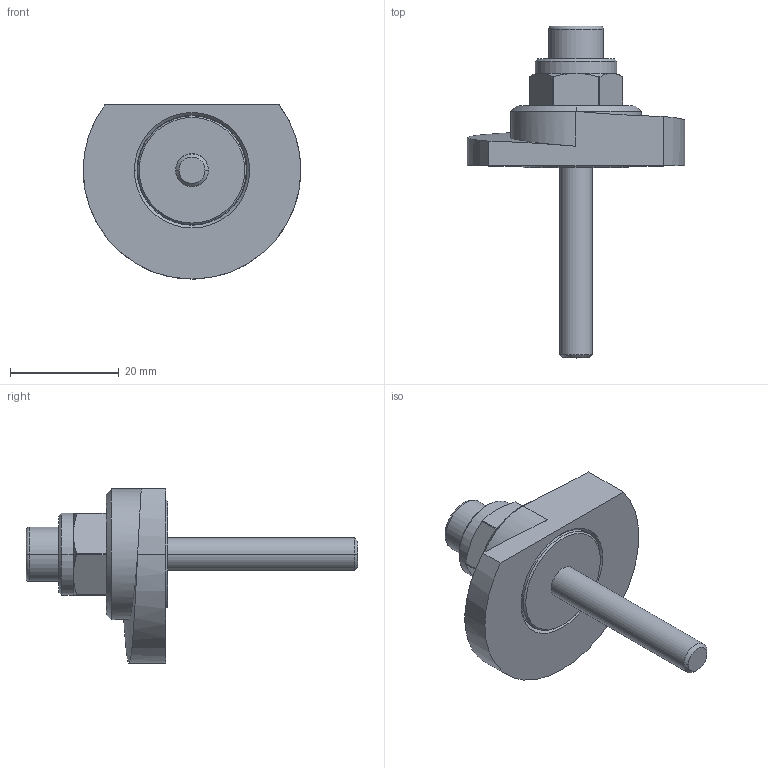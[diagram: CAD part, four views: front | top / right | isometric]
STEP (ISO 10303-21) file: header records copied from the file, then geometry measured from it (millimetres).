
FILE_DESCRIPTION (( 'STEP AP214' ), '1' );
FILE_NAME ('918.1-40-SKS-L-35.step', '2024-05-15T13:00:50', ( '' ), ( '' ), 'SwSTEP 2.0', 'SolidWorks 2022', '' );
FILE_SCHEMA (( 'AUTOMOTIVE_DESIGN' ));
Length unit declared in the file: millimetre
Products named in the file (1): 918.1-40-SKS-L-35
Bounding box: 40 x 61 x 32 mm (x, y, z)
Volume: 11939.6 mm3; surface area: 6868.2 mm2
Topology: 1 solids, 2 shells, 80 faces, 179 edges, 112 vertices
Faces by surface type: cylinder 27, plane 26, cone 22, bspline 3, torus 2
Entity records: 2599 total; most frequent: CARTESIAN_POINT 777, DIRECTION 390, ORIENTED_EDGE 358, EDGE_CURVE 179, AXIS2_PLACEMENT_3D 157, VERTEX_POINT 112, EDGE_LOOP 91, FACE_OUTER_BOUND 80
